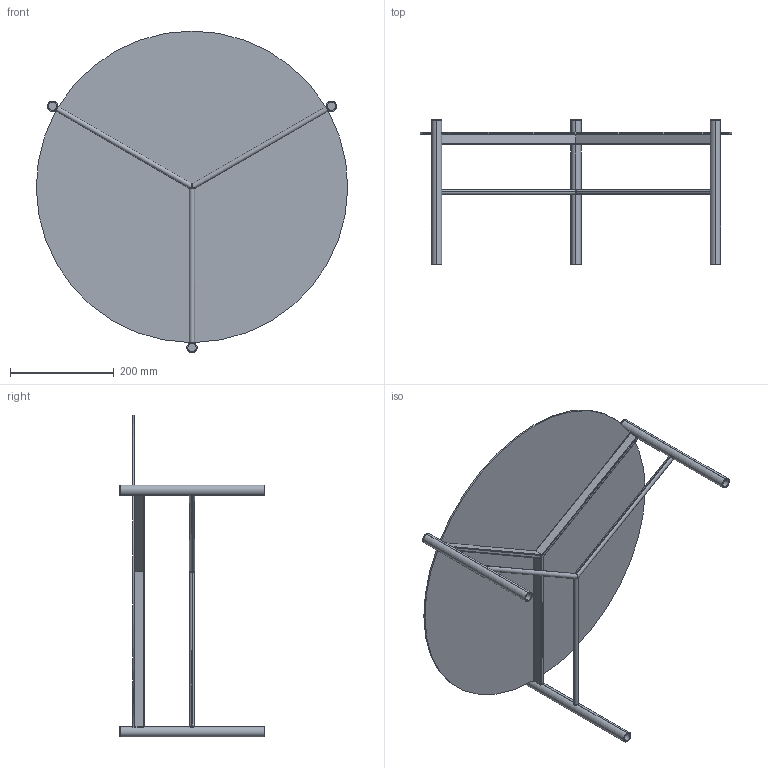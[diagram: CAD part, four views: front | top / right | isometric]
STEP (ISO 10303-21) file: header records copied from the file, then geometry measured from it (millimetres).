
FILE_DESCRIPTION (( 'STEP AP203' ), '1' );
FILE_NAME ('J101S.STEP', '2024-08-06T11:28:41', ( '' ), ( '' ), 'SwSTEP 2.0', 'SolidWorks 2022', '' );
FILE_SCHEMA (( 'CONFIG_CONTROL_DESIGN' ));
Length unit declared in the file: millimetre
Products named in the file (2): J101S; JXXXS00000000-00-jack metallo grezzo tutte le misure_J101S00000000-JACK TAVOLINO D.60x26h<A macchina>
Assembly tree (1 placements, depth 2):
  J101S
    JXXXS00000000-00-jack metallo grezzo tutte le misure_J101S00000000-JACK TAVOLINO D.60x26h<A macchina>
Bounding box: 599.97 x 279 x 620.07 mm (x, y, z)
Volume: 1014801.9 mm3; surface area: 809966.3 mm2
Topology: 13 solids, 13 shells, 121 faces, 287 edges, 190 vertices
Faces by surface type: cylinder 71, plane 50
Entity records: 4317 total; most frequent: CARTESIAN_POINT 1434, ORIENTED_EDGE 574, DIRECTION 521, EDGE_CURVE 287, VERTEX_POINT 190, AXIS2_PLACEMENT_3D 187, LINE 147, VECTOR 147
